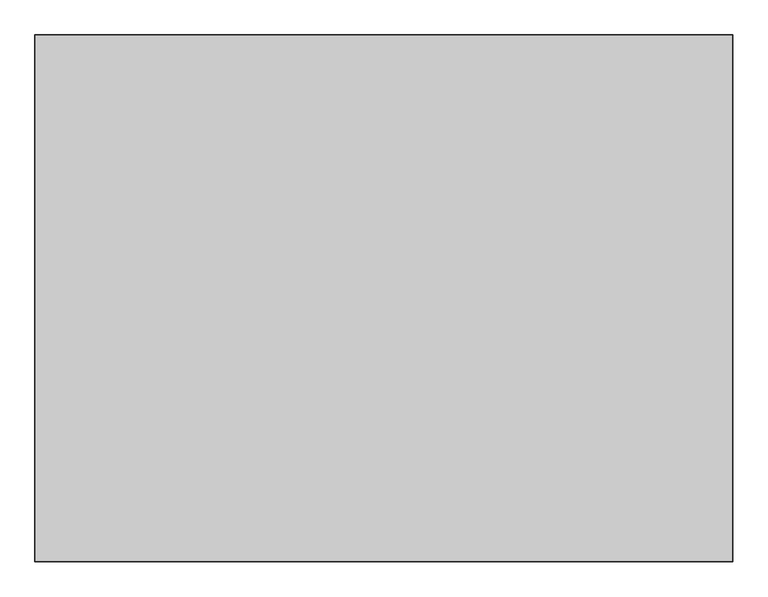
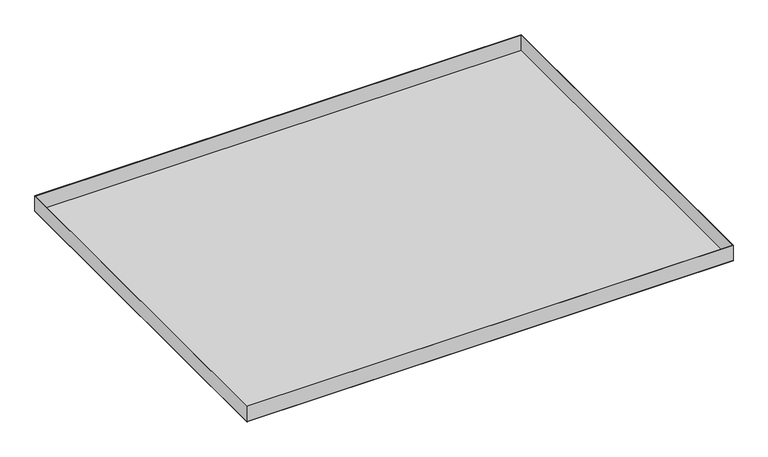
"""IFC4 building model written with IfcOpenShell, lengths in millimetres: proxy geometry, durlum_S7KS_RHOMBOS_panel : durlum_S7KS_RHOMBOS_panel_wall_width_cut."""

from ifc_helpers import new_model, si_unit, frame, origin, origin_with_axes, place, context, project, spatial, polyline, outline, extrude, source, transform, mapped, element, save


def generic_models_3457c1c0(model_context):
    return source(origin(), model_context, "Body", "SweptSolid", [
        extrude(outline(polyline([(595.0, 449.0), (595.0, -449.0), (-595.0, -449.0), (-595.0, 449.0), (595.0, 449.0)]), holes=[polyline([(594.0, 448.0), (-594.0, 448.0), (-594.0, -448.0), (594.0, -448.0), (594.0, 448.0)])]), frame((0.0, 0.0, 1.0), z_axis=(0.0, 0.0, 1.0), x_axis=(1.0, 0.0, 0.0)), (0.0, 0.0, 1.0), 39.0),
        extrude(outline(polyline([(595.0, 449.0), (595.0, -449.0), (-595.0, -449.0), (-595.0, 449.0), (595.0, 449.0)])), origin_with_axes(), (0.0, 0.0, 1.0), 1.0),
    ])


if __name__ == "__main__":
    model = new_model("IFC4")
    model_context = context("Model", 3, world=origin())
    ifc_project = project(units=[si_unit("LENGTHUNIT", "METRE", prefix="MILLI")], contexts=[model_context])
    site = spatial("IfcSite", under=ifc_project)
    building = spatial("IfcBuilding", under=site)
    placement = place(None, origin())
    generic_models_shape = generic_models_3457c1c0(model_context)
    element("IfcBuildingElementProxy", 1, Name="durlum_S7KS_RHOMBOS_panel : durlum_S7KS_RHOMBOS_panel_wall_width_cut", ObjectType="durlum_S7KS_RHOMBOS_panel : durlum_S7KS_RHOMBOS_panel_wall_width_cut", at=placement, inside=building, context=model_context, shape_type="MappedRepresentation", body=[
        mapped(generic_models_shape, transform((0.0, 0.0, 0.0), x_axis=(1.0, 0.0, 0.0), y_axis=(0.0, 1.0, 0.0), z_axis=(0.0, 0.0, 1.0))),
    ])
    save(model, "model.ifc")
